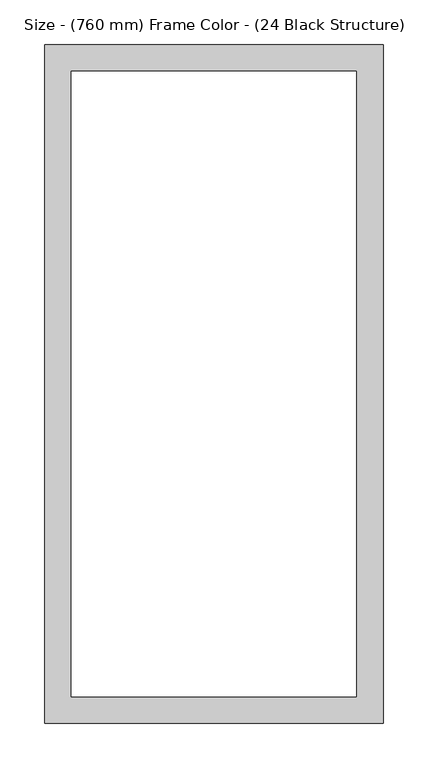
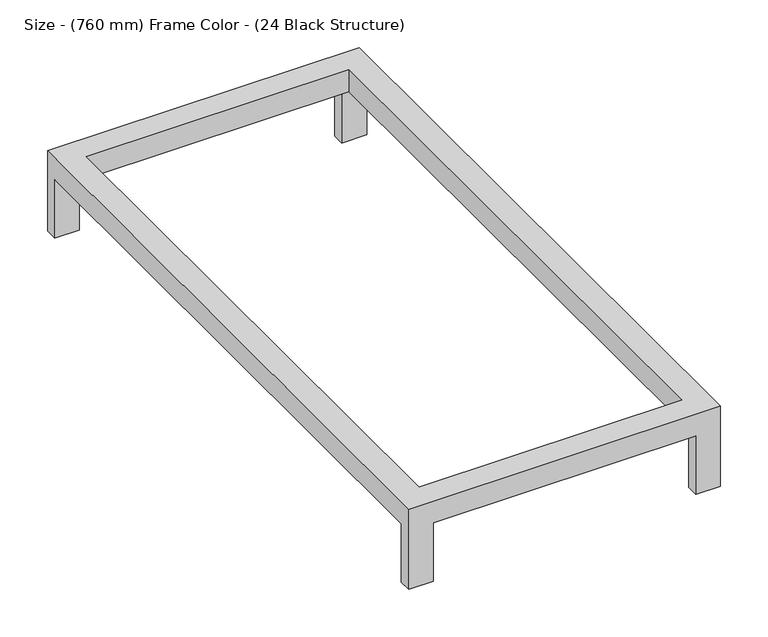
"""IFC4 building model written with IfcOpenShell, lengths in millimetres: proxy geometry, efg_create_storage_leg_frame : Size - (760 mm) Frame Color - (24 Black Structure)."""

from ifc_helpers import new_model, si_unit, origin, place, context, project, spatial, faceted_brep, source, transform, mapped, element, save


def size_760_mm_frame_color_24_black_structure_79f51c7b(model_context):
    return source(origin(), model_context, "Body", "Brep", [
        faceted_brep([(-159.5, -350.0, 103.25), (159.5, -350.0, 103.25), (159.5, -350.0, 74.9978513), (-159.5, -350.0, 74.9978513), (159.5, 350.0, 103.25), (159.5, 350.0, 74.9978513), (-159.5, 350.0, 103.25), (-159.5, 350.0, 74.9978513), (159.5, -364.9987231, 74.9978513), (159.5, -380.0, 74.9978513), (-159.5, -380.0, 74.9978513), (-159.5, -364.9982416, 74.9978513), (-189.5, -364.9982416, 74.9978513), (-189.5, 364.9823515, 74.9978513), (-159.5, 364.9823515, 74.9978513), (-159.5, 380.0, 74.9978513), (159.5, 380.0, 74.9978513), (159.5, 364.9823515, 74.9978513), (189.5, 364.9823515, 74.9978513), (189.5, -364.9987231, 74.9978513), (159.5, 364.9823515, 0.0), (159.5, 380.0, 0.0), (189.5, 380.0, 0.0), (189.5, 364.9823515, 0.0), (-189.5, 364.9823515, 0.0), (-189.5, 380.0, 0.0), (-159.5, 380.0, 0.0), (-159.5, 364.9823515, 0.0), (-189.5, -380.0, 0.0), (-189.5, -364.9982416, 0.0), (-159.5, -364.9982416, 0.0), (-159.5, -380.0, 0.0), (159.5, -380.0, 0.0), (159.5, -364.9987231, 0.0), (189.5, -364.9987231, 0.0), (189.5, -380.0, 0.0), (-189.5, 380.0, 103.25), (-189.5, -380.0, 103.25), (189.5, -380.0, 103.25), (189.5, 380.0, 103.25)], [[[0, 1, 2, 3]], [[1, 4, 5, 2]], [[4, 6, 7, 5]], [[6, 0, 3, 7]], [[8, 9, 10, 11, 12, 13, 14, 15, 16, 17, 18, 19], [3, 2, 5, 7]], [[20, 21, 22, 23]], [[16, 21, 20, 17]], [[17, 20, 23, 18]], [[24, 25, 26, 27]], [[14, 27, 26, 15]], [[13, 24, 27, 14]], [[28, 29, 30, 31]], [[11, 30, 29, 12]], [[10, 31, 30, 11]], [[32, 33, 34, 35]], [[8, 33, 32, 9]], [[19, 34, 33, 8]], [[36, 37, 38, 39], [0, 6, 4, 1]], [[39, 38, 35, 34, 19, 18, 23, 22]], [[35, 38, 37, 28, 31, 10, 9, 32]], [[36, 25, 24, 13, 12, 29, 28, 37]], [[15, 26, 25, 36, 39, 22, 21, 16]]]),
    ])


if __name__ == "__main__":
    model = new_model("IFC4")
    model_context = context("Model", 3, world=origin())
    ifc_project = project(units=[si_unit("LENGTHUNIT", "METRE", prefix="MILLI")], contexts=[model_context])
    site = spatial("IfcSite", under=ifc_project)
    building = spatial("IfcBuilding", under=site)
    placement = place(None, origin())
    size_760_mm_frame_color_24_black_structure_shape = size_760_mm_frame_color_24_black_structure_79f51c7b(model_context)
    element("IfcBuildingElementProxy", 1, Name="efg_create_storage_leg_frame : Size - (760 mm) Frame Color - (24 Black Structure)", ObjectType="efg_create_storage_leg_frame : Size - (760 mm) Frame Color - (24 Black Structure)", at=placement, inside=building, context=model_context, shape_type="MappedRepresentation", body=[
        mapped(size_760_mm_frame_color_24_black_structure_shape, transform((0.0, 0.0, 0.0), x_axis=(1.0, 0.0, 0.0), y_axis=(0.0, 1.0, 0.0), z_axis=(0.0, 0.0, 1.0))),
    ])
    save(model, "model.ifc")
